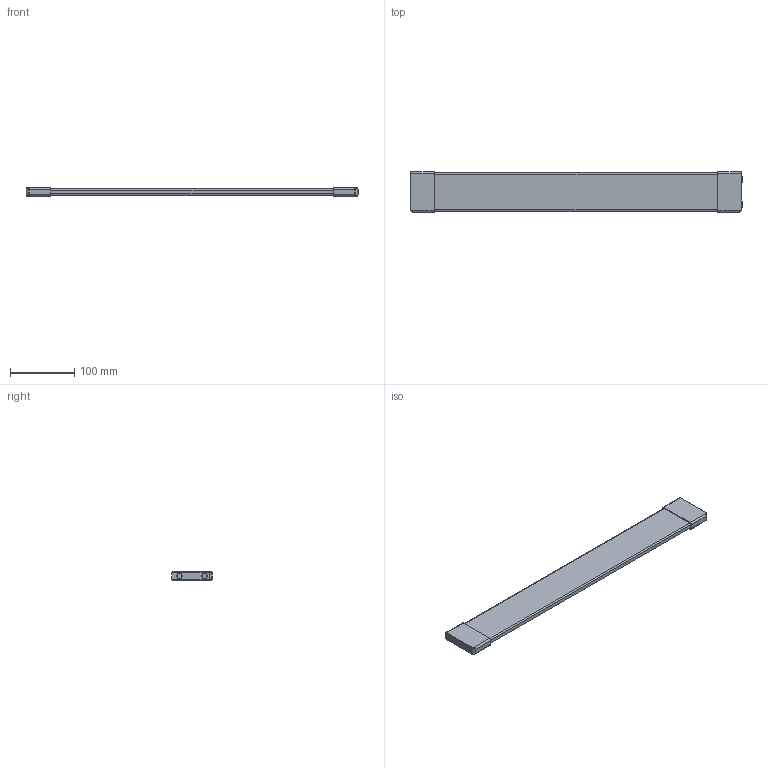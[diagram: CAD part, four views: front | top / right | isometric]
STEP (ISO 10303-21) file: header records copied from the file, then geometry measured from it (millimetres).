
FILE_DESCRIPTION (( 'STEP AP214' ), '1' );
FILE_NAME ('Schubkastenteiler_PROKAB_600.step', '2009-11-04T15:16:44', ( 'Waldinger Reinhard' ), ( 'Grass GmbH' ), 'SwSTEP 2.0', 'SolidWorks 2009', '' );
FILE_SCHEMA (( 'AUTOMOTIVE_DESIGN' ));
Length unit declared in the file: millimetre
Products named in the file (1): Schubkastenteiler_PROKAB_600
Bounding box: 517.9 x 63.7 x 13 mm (x, y, z)
Volume: 318716 mm3; surface area: 73052.1 mm2
Topology: 1 solids, 1 shells, 92 faces, 208 edges, 124 vertices
Faces by surface type: cylinder 38, torus 28, plane 22, bspline 4
Entity records: 3210 total; most frequent: CARTESIAN_POINT 1069, DIRECTION 486, ORIENTED_EDGE 416, EDGE_CURVE 208, AXIS2_PLACEMENT_3D 205, VERTEX_POINT 124, CIRCLE 116, EDGE_LOOP 98
